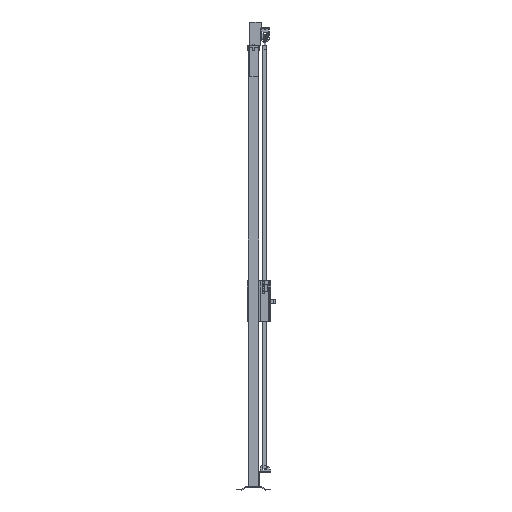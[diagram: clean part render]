
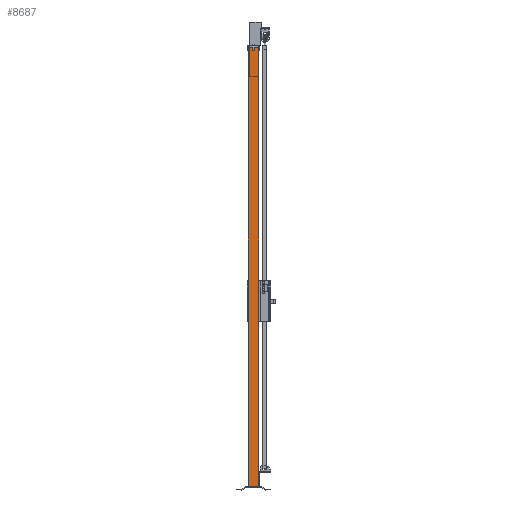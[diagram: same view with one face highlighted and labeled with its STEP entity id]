
A CAD part, left-side view. The second image highlights one B-rep face of the part: STEP entity #8687.
In plain terms, the highlighted planar face has unit normal (-1, 0, 0).
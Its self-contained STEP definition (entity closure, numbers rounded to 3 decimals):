
#812=FACE_OUTER_BOUND('',#1249,.T.);
#1249=EDGE_LOOP('',(#6315,#6316,#6317,#6318));
#1892=LINE('',#12726,#3043);
#1896=LINE('',#12735,#3047);
#1898=LINE('',#12738,#3049);
#1900=LINE('',#12741,#3051);
#3043=VECTOR('',#10120,1.);
#3047=VECTOR('',#10126,1.);
#3049=VECTOR('',#10130,1.);
#3051=VECTOR('',#10134,1.);
#4041=VERTEX_POINT('',#12723);
#4042=VERTEX_POINT('',#12725);
#4045=VERTEX_POINT('',#12732);
#4046=VERTEX_POINT('',#12734);
#4935=EDGE_CURVE('',#4041,#4042,#1892,.T.);
#4939=EDGE_CURVE('',#4045,#4046,#1896,.T.);
#4941=EDGE_CURVE('',#4042,#4045,#1898,.T.);
#4943=EDGE_CURVE('',#4041,#4046,#1900,.T.);
#6315=ORIENTED_EDGE('',*,*,#4943,.T.);
#6316=ORIENTED_EDGE('',*,*,#4939,.F.);
#6317=ORIENTED_EDGE('',*,*,#4941,.F.);
#6318=ORIENTED_EDGE('',*,*,#4935,.F.);
#8297=PLANE('',#9170);
#8687=ADVANCED_FACE('',(#812),#8297,.F.);
#9170=AXIS2_PLACEMENT_3D('',#12740,#10132,#10133);
#10120=DIRECTION('',(0.,-1.,0.));
#10126=DIRECTION('',(0.,1.,0.));
#10130=DIRECTION('',(0.,0.,-1.));
#10132=DIRECTION('center_axis',(1.,0.,0.));
#10133=DIRECTION('ref_axis',(0.,0.,-1.));
#10134=DIRECTION('',(0.,0.,-1.));
#12723=CARTESIAN_POINT('',(-30.,30.,2520.));
#12725=CARTESIAN_POINT('',(-30.,-30.,2520.));
#12726=CARTESIAN_POINT('',(-30.,0.,2520.));
#12732=CARTESIAN_POINT('',(-30.,-30.,20.));
#12734=CARTESIAN_POINT('',(-30.,30.,20.));
#12735=CARTESIAN_POINT('',(-30.,0.,20.));
#12738=CARTESIAN_POINT('',(-30.,-30.,1270.));
#12740=CARTESIAN_POINT('Origin',(-30.,0.,
1270.));
#12741=CARTESIAN_POINT('',(-30.,30.,1270.));
